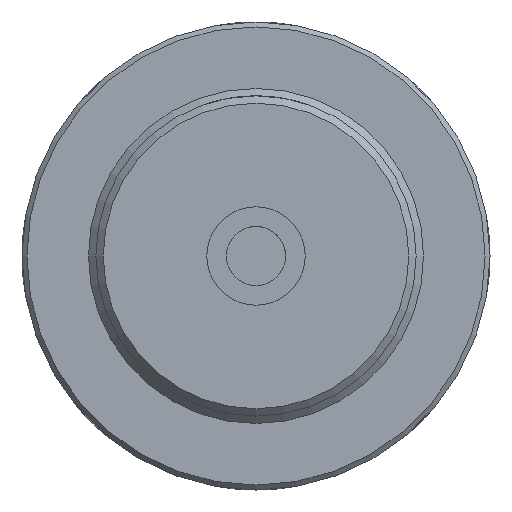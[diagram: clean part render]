
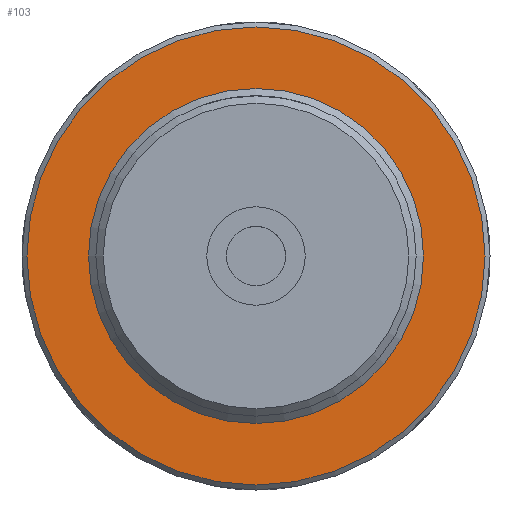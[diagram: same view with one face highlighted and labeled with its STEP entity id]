
A CAD part, left-side view. The second image highlights one B-rep face of the part: STEP entity #103.
In plain terms, the highlighted planar face has unit normal (-1, 0, 0).
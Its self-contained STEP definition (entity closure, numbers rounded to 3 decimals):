
#103 = ADVANCED_FACE( '', ( #212, #213 ), #214, .T. );
#212 = FACE_OUTER_BOUND( '', #357, .T. );
#213 = FACE_BOUND( '', #358, .T. );
#214 = PLANE( '', #359 );
#357 = EDGE_LOOP( '', ( #566 ) );
#358 = EDGE_LOOP( '', ( #567 ) );
#359 = AXIS2_PLACEMENT_3D( '', #568, #569, #570 );
#566 = ORIENTED_EDGE( '', *, *, #690, .T. );
#567 = ORIENTED_EDGE( '', *, *, #664, .T. );
#568 = CARTESIAN_POINT( '', ( 45.25, 0., 34. ) );
#569 = DIRECTION( '', ( -1., 0., 0. ) );
#570 = DIRECTION( '', ( 0., 0., 1. ) );
#664 = EDGE_CURVE( '', #726, #726, #727, .F. );
#690 = EDGE_CURVE( '', #764, #764, #765, .T. );
#726 = VERTEX_POINT( '', #954 );
#727 = CIRCLE( '', #955, 34. );
#764 = VERTEX_POINT( '', #1382 );
#765 = CIRCLE( '', #1383, 46.5 );
#954 = CARTESIAN_POINT( '', ( 45.25, 0., 34. ) );
#955 = AXIS2_PLACEMENT_3D( '', #1518, #1519, #1520 );
#1382 = CARTESIAN_POINT( '', ( 45.25, 0., 46.5 ) );
#1383 = AXIS2_PLACEMENT_3D( '', #1557, #1558, #1559 );
#1518 = CARTESIAN_POINT( '', ( 45.25, 0., 0. ) );
#1519 = DIRECTION( '', ( -1., 0., 0. ) );
#1520 = DIRECTION( '', ( 0., 0., 1. ) );
#1557 = CARTESIAN_POINT( '', ( 45.25, 0., 0. ) );
#1558 = DIRECTION( '', ( -1., 0., 0. ) );
#1559 = DIRECTION( '', ( 0., 0., 1. ) );
